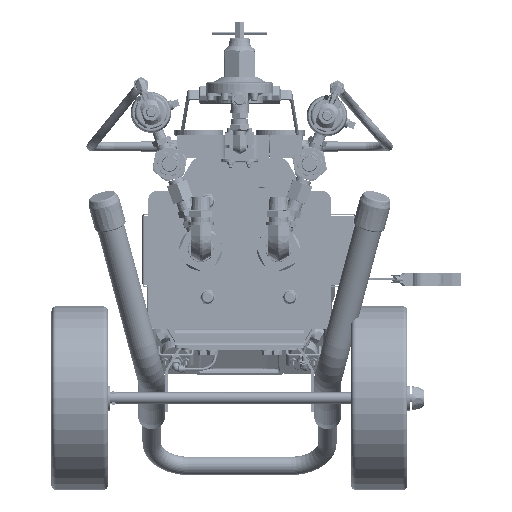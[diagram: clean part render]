
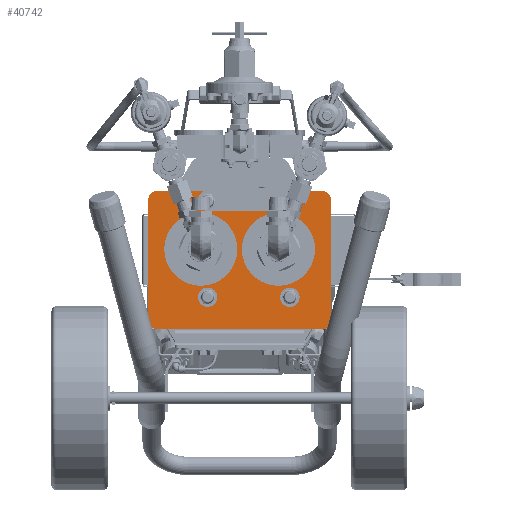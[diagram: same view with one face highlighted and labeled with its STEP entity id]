
A CAD part, front view. The second image highlights one B-rep face of the part: STEP entity #40742.
In plain terms, the highlighted planar face has unit normal (0, -1, 0).
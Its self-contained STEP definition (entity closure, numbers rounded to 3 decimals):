
#40583=CARTESIAN_POINT('',(-4.5,-10.062,-3.884));
#40584=DIRECTION('',(0.,-1.,0.));
#40585=DIRECTION('',(-1.,0.,0.));
#40586=AXIS2_PLACEMENT_3D('',#40583,#40584,#40585);
#40588=DIRECTION('',(0.,0.,1.));
#40589=VECTOR('',#40588,6.584);
#40590=CARTESIAN_POINT('',(-5.,-10.062,-3.884));
#40591=LINE('',#40590,#40589);
#40592=CARTESIAN_POINT('',(-4.5,-10.062,2.7));
#40593=DIRECTION('',(0.,-1.,0.));
#40594=DIRECTION('',(0.,0.,1.));
#40595=AXIS2_PLACEMENT_3D('',#40592,#40593,#40594);
#40597=DIRECTION('',(1.,0.,0.));
#40598=VECTOR('',#40597,9.);
#40599=CARTESIAN_POINT('',(-4.5,-10.062,3.2));
#40600=LINE('',#40599,#40598);
#40601=CARTESIAN_POINT('',(4.5,-10.062,2.7));
#40602=DIRECTION('',(0.,-1.,0.));
#40603=DIRECTION('',(1.,0.,0.));
#40604=AXIS2_PLACEMENT_3D('',#40601,#40602,#40603);
#40606=DIRECTION('',(0.,0.,-1.));
#40607=VECTOR('',#40606,6.584);
#40608=CARTESIAN_POINT('',(5.,-10.062,2.7));
#40609=LINE('',#40608,#40607);
#40610=CARTESIAN_POINT('',(4.5,-10.062,-3.884));
#40611=DIRECTION('',(0.,-1.,0.));
#40612=DIRECTION('',(0.,0.,-1.));
#40613=AXIS2_PLACEMENT_3D('',#40610,#40611,#40612);
#40615=DIRECTION('',(-1.,0.,0.));
#40616=VECTOR('',#40615,9.);
#40617=CARTESIAN_POINT('',(4.5,-10.062,-4.384));
#40618=LINE('',#40617,#40616);
#40687=CARTESIAN_POINT('',(-4.5,-10.062,3.2));
#40688=CARTESIAN_POINT('',(-5.,-10.062,2.7));
#40689=VERTEX_POINT('',#40687);
#40690=VERTEX_POINT('',#40688);
#40695=CARTESIAN_POINT('',(5.,-10.062,2.7));
#40696=CARTESIAN_POINT('',(4.5,-10.062,3.2));
#40697=VERTEX_POINT('',#40695);
#40698=VERTEX_POINT('',#40696);
#40703=CARTESIAN_POINT('',(-5.,-10.062,-3.884));
#40704=CARTESIAN_POINT('',(-4.5,-10.062,-4.384));
#40705=VERTEX_POINT('',#40703);
#40706=VERTEX_POINT('',#40704);
#40711=CARTESIAN_POINT('',(4.5,-10.062,-4.384));
#40712=CARTESIAN_POINT('',(5.,-10.062,-3.884));
#40713=VERTEX_POINT('',#40711);
#40714=VERTEX_POINT('',#40712);
#40719=CARTESIAN_POINT('',(0.,-10.062,0.));
#40720=DIRECTION('',(0.,1.,0.));
#40721=DIRECTION('',(1.,0.,0.));
#40722=AXIS2_PLACEMENT_3D('',#40719,#40720,#40721);
#40723=PLANE('',#40722);
#40725=ORIENTED_EDGE('',*,*,#40724,.F.);
#40727=ORIENTED_EDGE('',*,*,#40726,.T.);
#40729=ORIENTED_EDGE('',*,*,#40728,.F.);
#40731=ORIENTED_EDGE('',*,*,#40730,.T.);
#40733=ORIENTED_EDGE('',*,*,#40732,.F.);
#40735=ORIENTED_EDGE('',*,*,#40734,.T.);
#40737=ORIENTED_EDGE('',*,*,#40736,.F.);
#40739=ORIENTED_EDGE('',*,*,#40738,.T.);
#40740=EDGE_LOOP('',(#40725,#40727,#40729,#40731,#40733,#40735,#40737,#40739));
#40741=FACE_OUTER_BOUND('',#40740,.F.);
#40742=ADVANCED_FACE('',(#40741),#40723,.F.);
#40587=CIRCLE('',#40586,0.5);
#40596=CIRCLE('',#40595,0.5);
#40605=CIRCLE('',#40604,0.5);
#40614=CIRCLE('',#40613,0.5);
#40724=EDGE_CURVE('',#40705,#40706,#40587,.T.);
#40726=EDGE_CURVE('',#40705,#40690,#40591,.T.);
#40728=EDGE_CURVE('',#40689,#40690,#40596,.T.);
#40730=EDGE_CURVE('',#40689,#40698,#40600,.T.);
#40732=EDGE_CURVE('',#40697,#40698,#40605,.T.);
#40734=EDGE_CURVE('',#40697,#40714,#40609,.T.);
#40736=EDGE_CURVE('',#40713,#40714,#40614,.T.);
#40738=EDGE_CURVE('',#40713,#40706,#40618,.T.);
